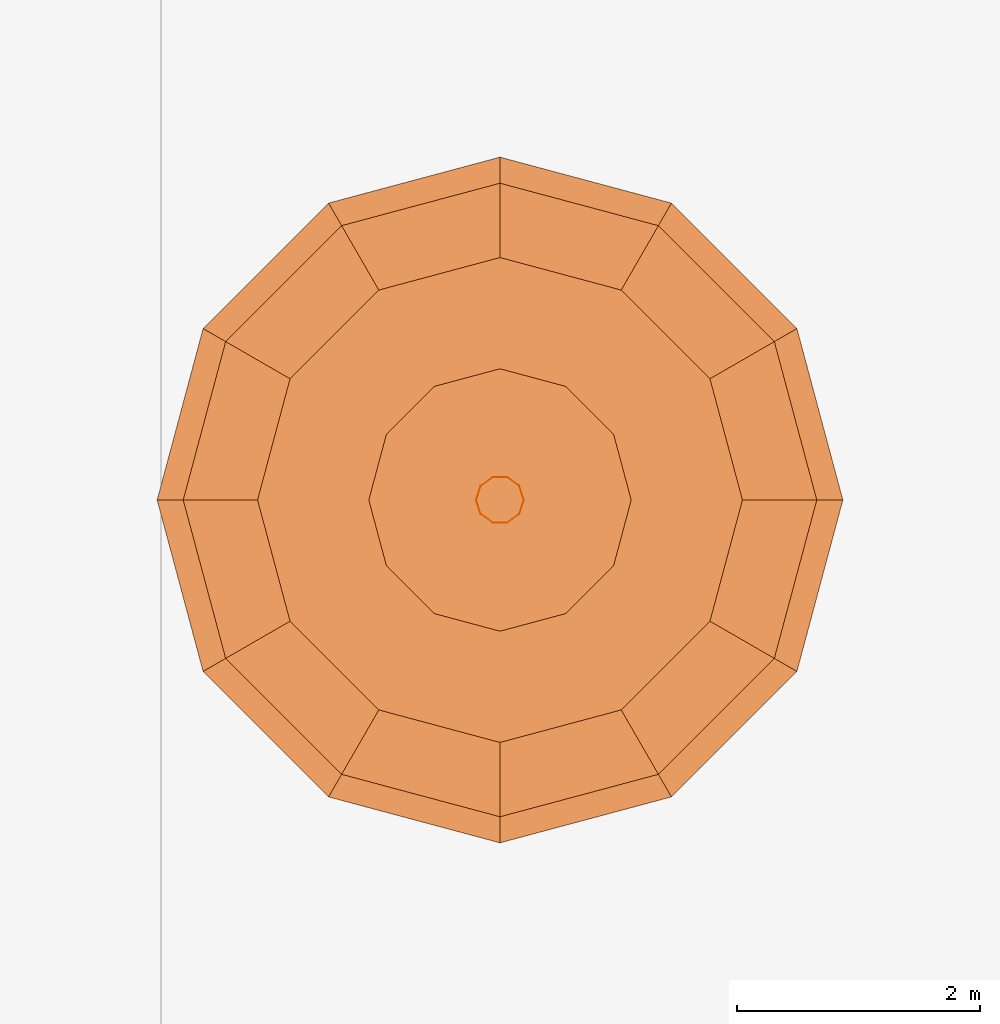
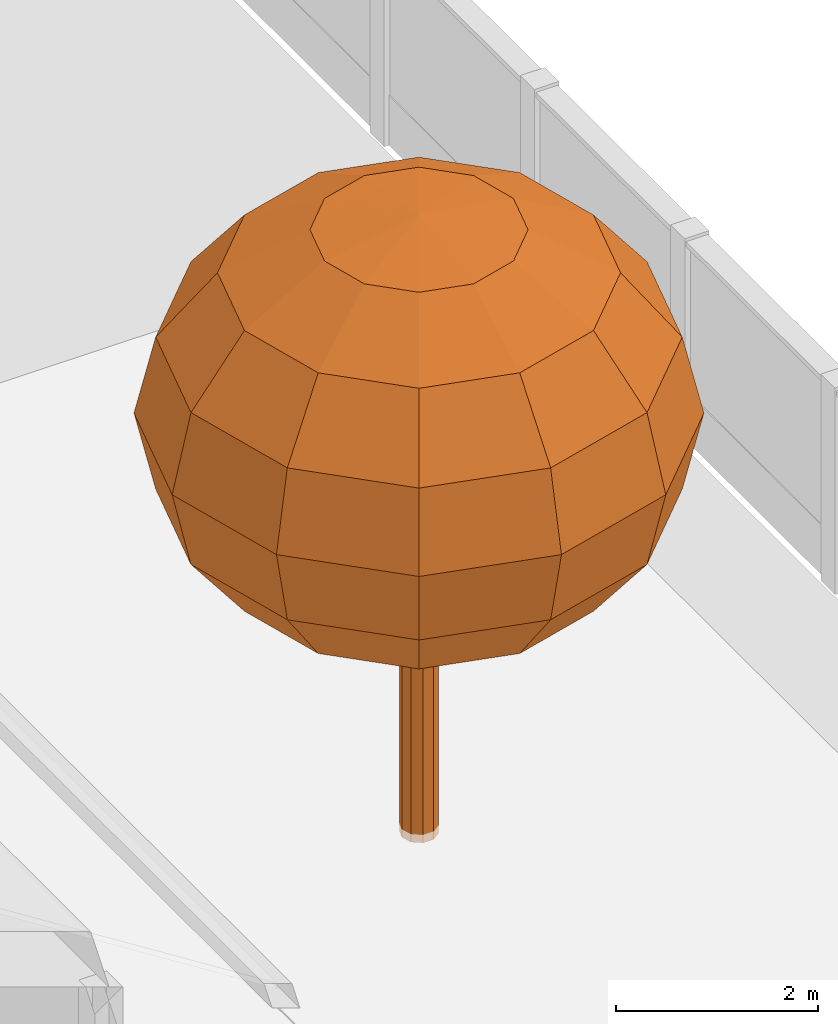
# One storey, part 156 of 166: 2 proxies.
"""IFC2X3 building model written with IfcOpenShell, lengths in metres."""

from ifc_helpers import new_model, si_unit, origin, origin_with_axes, place, context, subcontext, project, spatial, faceted_brep, element, save


model = new_model("IFC2X3")

# Units and contexts
model_context = context("Model", 3, precision=1e-05, world=origin_with_axes())
body_context = subcontext(model_context, "Body", "Model", "MODEL_VIEW")
ifc_project = project(units=[si_unit("LENGTHUNIT", "METRE"), si_unit("AREAUNIT", "SQUARE_METRE"), si_unit("VOLUMEUNIT", "CUBIC_METRE"), si_unit("PLANEANGLEUNIT", "RADIAN")], contexts=[model_context])

# Site, building, storey
site_placement = place(None, origin_with_axes())
site = spatial("IfcSite", under=ifc_project, at=site_placement, Name="Predio Los Mangos - Morales, San Martín", CompositionType="ELEMENT")
building_placement = place(site_placement, origin())
building = spatial("IfcBuilding", under=site, at=building_placement, Name="Hogar de Refugio Temporal", CompositionType="ELEMENT")
storey_placement = place(building_placement, origin())
storey = spatial("IfcBuildingStorey", under=building, at=storey_placement, Name="NIVEL 1 (NPT +0.00)", CompositionType="ELEMENT", Elevation=0.0)

# Proxies
proxy_1_placement = place(storey_placement, origin())
element("IfcBuildingElementProxy", 1, at=proxy_1_placement, inside=storey, Name="arbol_tronco", ObjectType="Árbol", context=body_context, shape_type="Brep", body=[
    faceted_brep([(66.1965, 70.0, 0.0), (66.159, 70.1155, 0.0), (66.159, 70.1155, 2.948), (66.0607, 70.1869, 0.0), (66.0607, 70.1869, 2.948), (65.9393, 70.1869, 0.0), (65.9393, 70.1869, 2.948), (65.841, 70.1155, 0.0), (65.841, 70.1155, 2.948), (65.8035, 70.0, 0.0), (65.8035, 70.0, 2.948), (65.841, 69.8845, 0.0), (65.841, 69.8845, 2.948), (65.9393, 69.8131, 0.0), (65.9393, 69.8131, 2.948), (66.0607, 69.8131, 0.0), (66.0607, 69.8131, 2.948), (66.159, 69.8845, 0.0), (66.159, 69.8845, 2.948), (66.1965, 70.0, 2.948)], [[[0, 1, 2]], [[1, 3, 4]], [[3, 5, 6]], [[5, 7, 8]], [[7, 9, 10]], [[9, 11, 12]], [[11, 13, 14]], [[13, 15, 16]], [[15, 17, 18]], [[17, 0, 19]], [[0, 2, 19]], [[1, 4, 2]], [[3, 6, 4]], [[5, 8, 6]], [[7, 10, 8]], [[9, 12, 10]], [[11, 14, 12]], [[13, 16, 14]], [[15, 18, 16]], [[17, 19, 18]]]),
])
proxy_2_placement = place(storey_placement, origin())
element("IfcBuildingElementProxy", 2, at=proxy_2_placement, inside=storey, Name="arbol_copa", ObjectType="Árbol", context=body_context, shape_type="Brep", body=[
    faceted_brep([(66.0, 70.0, 7.4682), (66.0, 70.0, 7.4682), (66.9363, 70.5406, 7.2854), (67.0811, 70.0, 7.2854), (66.0, 70.0, 7.4682), (66.5406, 70.9363, 7.2854), (66.0, 70.0, 7.4682), (66.0, 71.0811, 7.2854), (66.0, 70.0, 7.4682), (65.4594, 70.9363, 7.2854), (66.0, 70.0, 7.4682), (65.0637, 70.5406, 7.2854), (66.0, 70.0, 7.4682), (64.9189, 70.0, 7.2854), (66.0, 70.0, 7.4682), (65.0637, 69.4594, 7.2854), (66.0, 70.0, 7.4682), (65.4594, 69.0637, 7.2854), (66.0, 70.0, 7.4682), (66.0, 68.9189, 7.2854), (66.0, 70.0, 7.4682), (66.5406, 69.0637, 7.2854), (66.0, 70.0, 7.4682), (66.9363, 69.4594, 7.2854), (67.73, 70.9988, 6.7649), (67.9977, 70.0, 6.7649), (66.9988, 71.73, 6.7649), (66.0, 71.9977, 6.7649), (65.0012, 71.73, 6.7649), (64.27, 70.9988, 6.7649), (64.0023, 70.0, 6.7649), (64.27, 69.0012, 6.7649), (65.0012, 68.27, 6.7649), (66.0, 68.0023, 6.7649), (66.9988, 68.27, 6.7649), (67.73, 69.0012, 6.7649), (68.2604, 71.305, 5.9858), (68.6101, 70.0, 5.9858), (67.305, 72.2604, 5.9858), (66.0, 72.6101, 5.9858), (64.695, 72.2604, 5.9858), (63.7396, 71.305, 5.9858), (63.3899, 70.0, 5.9858), (63.7396, 68.695, 5.9858), (64.695, 67.7396, 5.9858), (66.0, 67.3899, 5.9858), (67.305, 67.7396, 5.9858), (68.2604, 68.695, 5.9858), (68.4466, 71.4126, 5.0668), (68.8251, 70.0, 5.0668), (67.4126, 72.4466, 5.0668), (66.0, 72.8251, 5.0668), (64.5874, 72.4466, 5.0668), (63.5534, 71.4126, 5.0668), (63.1749, 70.0, 5.0668), (63.5534, 68.5874, 5.0668), (64.5874, 67.5534, 5.0668), (66.0, 67.1749, 5.0668), (67.4126, 67.5534, 5.0668), (68.4466, 68.5874, 5.0668), (68.2604, 71.305, 4.1479), (68.6101, 70.0, 4.1479), (67.305, 72.2604, 4.1479), (66.0, 72.6101, 4.1479), (64.695, 72.2604, 4.1479), (63.7396, 71.305, 4.1479), (63.3899, 70.0, 4.1479), (63.7396, 68.695, 4.1479), (64.695, 67.7396, 4.1479), (66.0, 67.3899, 4.1479), (67.305, 67.7396, 4.1479), (68.2604, 68.695, 4.1479), (67.73, 70.9988, 3.3688), (67.9977, 70.0, 3.3688), (66.9988, 71.73, 3.3688), (66.0, 71.9977, 3.3688), (65.0012, 71.73, 3.3688), (64.27, 70.9988, 3.3688), (64.0023, 70.0, 3.3688), (64.27, 69.0012, 3.3688), (65.0012, 68.27, 3.3688), (66.0, 68.0023, 3.3688), (66.9988, 68.27, 3.3688), (67.73, 69.0012, 3.3688), (66.9363, 70.5406, 2.8483), (67.0811, 70.0, 2.8483), (66.5406, 70.9363, 2.8483), (66.0, 71.0811, 2.8483), (65.4594, 70.9363, 2.8483), (65.0637, 70.5406, 2.8483), (64.9189, 70.0, 2.8483), (65.0637, 69.4594, 2.8483), (65.4594, 69.0637, 2.8483), (66.0, 68.9189, 2.8483), (66.5406, 69.0637, 2.8483), (66.9363, 69.4594, 2.8483), (66.0, 70.0, 2.6655), (66.0, 70.0, 2.6655), (66.0, 70.0, 2.6655), (66.0, 70.0, 2.6655), (66.0, 70.0, 2.6655), (66.0, 70.0, 2.6655), (66.0, 70.0, 2.6655), (66.0, 70.0, 2.6655), (66.0, 70.0, 2.6655), (66.0, 70.0, 2.6655), (66.0, 70.0, 2.6655), (66.0, 70.0, 2.6655)], [[[0, 1, 2]], [[0, 2, 3]], [[1, 4, 5]], [[1, 5, 2]], [[4, 6, 7]], [[4, 7, 5]], [[6, 8, 9]], [[6, 9, 7]], [[8, 10, 11]], [[8, 11, 9]], [[10, 12, 13]], [[10, 13, 11]], [[12, 14, 15]], [[12, 15, 13]], [[14, 16, 17]], [[14, 17, 15]], [[16, 18, 19]], [[16, 19, 17]], [[18, 20, 21]], [[18, 21, 19]], [[20, 22, 23]], [[20, 23, 21]], [[22, 0, 3]], [[22, 3, 23]], [[3, 2, 24]], [[3, 24, 25]], [[2, 5, 26]], [[2, 26, 24]], [[5, 7, 27]], [[5, 27, 26]], [[7, 9, 28]], [[7, 28, 27]], [[9, 11, 29]], [[9, 29, 28]], [[11, 13, 30]], [[11, 30, 29]], [[13, 15, 31]], [[13, 31, 30]], [[15, 17, 32]], [[15, 32, 31]], [[17, 19, 33]], [[17, 33, 32]], [[19, 21, 34]], [[19, 34, 33]], [[21, 23, 35]], [[21, 35, 34]], [[23, 3, 25]], [[23, 25, 35]], [[25, 24, 36]], [[25, 36, 37]], [[24, 26, 38]], [[24, 38, 36]], [[26, 27, 39]], [[26, 39, 38]], [[27, 28, 40]], [[27, 40, 39]], [[28, 29, 41]], [[28, 41, 40]], [[29, 30, 42]], [[29, 42, 41]], [[30, 31, 43]], [[30, 43, 42]], [[31, 32, 44]], [[31, 44, 43]], [[32, 33, 45]], [[32, 45, 44]], [[33, 34, 46]], [[33, 46, 45]], [[34, 35, 47]], [[34, 47, 46]], [[35, 25, 37]], [[35, 37, 47]], [[37, 36, 48]], [[37, 48, 49]], [[36, 38, 50]], [[36, 50, 48]], [[38, 39, 51]], [[38, 51, 50]], [[39, 40, 52]], [[39, 52, 51]], [[40, 41, 53]], [[40, 53, 52]], [[41, 42, 54]], [[41, 54, 53]], [[42, 43, 55]], [[42, 55, 54]], [[43, 44, 56]], [[43, 56, 55]], [[44, 45, 57]], [[44, 57, 56]], [[45, 46, 58]], [[45, 58, 57]], [[46, 47, 59]], [[46, 59, 58]], [[47, 37, 49]], [[47, 49, 59]], [[49, 48, 60]], [[49, 60, 61]], [[48, 50, 62]], [[48, 62, 60]], [[50, 51, 63]], [[50, 63, 62]], [[51, 52, 64]], [[51, 64, 63]], [[52, 53, 65]], [[52, 65, 64]], [[53, 54, 66]], [[53, 66, 65]], [[54, 55, 67]], [[54, 67, 66]], [[55, 56, 68]], [[55, 68, 67]], [[56, 57, 69]], [[56, 69, 68]], [[57, 58, 70]], [[57, 70, 69]], [[58, 59, 71]], [[58, 71, 70]], [[59, 49, 61]], [[59, 61, 71]], [[61, 60, 72]], [[61, 72, 73]], [[60, 62, 74]], [[60, 74, 72]], [[62, 63, 75]], [[62, 75, 74]], [[63, 64, 76]], [[63, 76, 75]], [[64, 65, 77]], [[64, 77, 76]], [[65, 66, 78]], [[65, 78, 77]], [[66, 67, 79]], [[66, 79, 78]], [[67, 68, 80]], [[67, 80, 79]], [[68, 69, 81]], [[68, 81, 80]], [[69, 70, 82]], [[69, 82, 81]], [[70, 71, 83]], [[70, 83, 82]], [[71, 61, 73]], [[71, 73, 83]], [[73, 72, 84]], [[73, 84, 85]], [[72, 74, 86]], [[72, 86, 84]], [[74, 75, 87]], [[74, 87, 86]], [[75, 76, 88]], [[75, 88, 87]], [[76, 77, 89]], [[76, 89, 88]], [[77, 78, 90]], [[77, 90, 89]], [[78, 79, 91]], [[78, 91, 90]], [[79, 80, 92]], [[79, 92, 91]], [[80, 81, 93]], [[80, 93, 92]], [[81, 82, 94]], [[81, 94, 93]], [[82, 83, 95]], [[82, 95, 94]], [[83, 73, 85]], [[83, 85, 95]], [[85, 84, 96]], [[85, 96, 97]], [[84, 86, 98]], [[84, 98, 96]], [[86, 87, 99]], [[86, 99, 98]], [[87, 88, 100]], [[87, 100, 99]], [[88, 89, 101]], [[88, 101, 100]], [[89, 90, 102]], [[89, 102, 101]], [[90, 91, 103]], [[90, 103, 102]], [[91, 92, 104]], [[91, 104, 103]], [[92, 93, 105]], [[92, 105, 104]], [[93, 94, 106]], [[93, 106, 105]], [[94, 95, 107]], [[94, 107, 106]], [[95, 85, 97]], [[95, 97, 107]]]),
])

save(model, "model.ifc")
